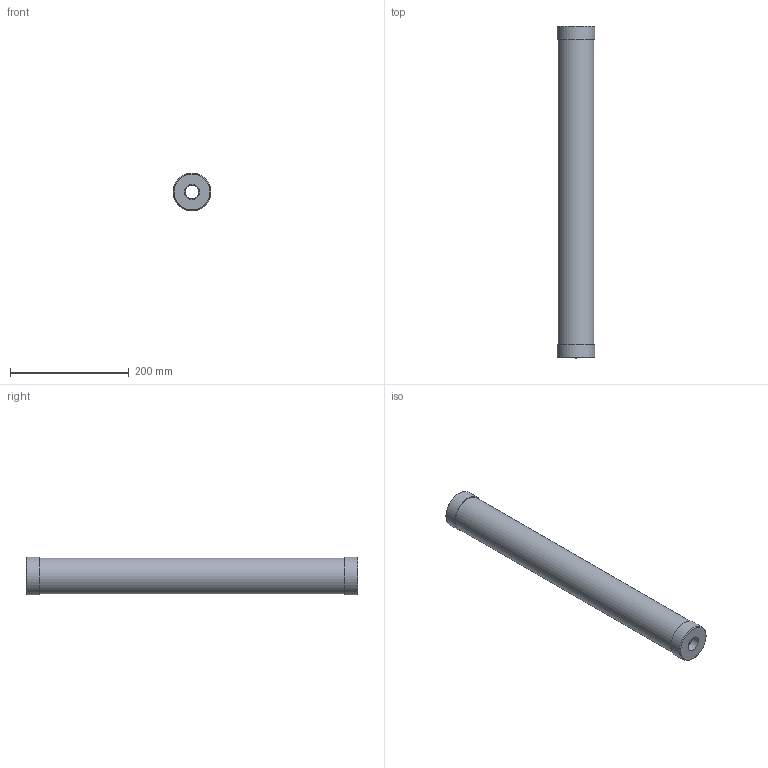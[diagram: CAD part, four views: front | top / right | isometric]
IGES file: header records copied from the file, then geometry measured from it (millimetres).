
Start section: SolidWorks IGES file using analytic representation for surfaces
Global section: file name: F:\Griffco-Valve\Griffco_current-projects\GV_web-files_2015\CAL cylinders\CC1000_P_NPT.IGS; native system: SolidWorks 2014; preprocessor: SolidWorks 2014; author: Dan; date: 160321.041740; units: inch
Bounding box: 63.5 x 558.8 x 63.5 mm (x, y, z)
Surface area: 202850.6 mm2 (no closed solid volume)
Topology: 0 solids, 0 shells, 18 faces, 47 edges, 37 vertices
Faces by surface type: revolution 10, bspline 8
